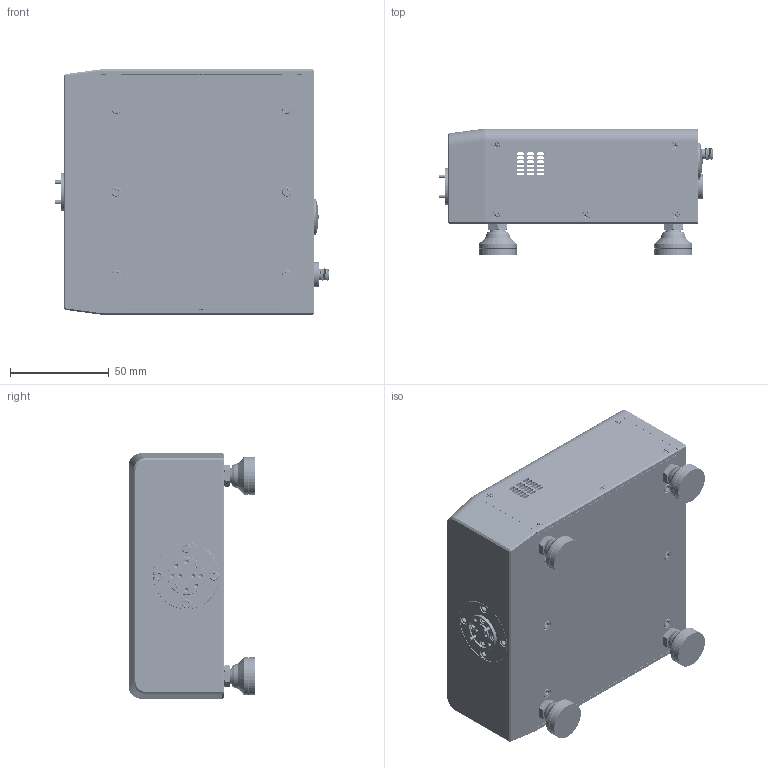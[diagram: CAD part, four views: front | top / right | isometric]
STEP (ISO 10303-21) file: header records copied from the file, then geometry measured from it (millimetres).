
FILE_DESCRIPTION (( 'STEP AP214' ), '1' );
FILE_NAME ('TC-V-A-IDP, Defeatured.STEP', '2025-02-11T20:57:07', ( '' ), ( '' ), 'SwSTEP 2.0', 'SolidWorks 2021', '' );
FILE_SCHEMA (( 'AUTOMOTIVE_DESIGN' ));
Length unit declared in the file: inch
Products named in the file (1): TC-V-A-IDP, Defeatured
Bounding box: 139.21 x 64.14 x 124.32 mm (x, y, z)
Volume: 300467.9 mm3; surface area: 152668.2 mm2
Topology: 53 solids, 53 shells, 3691 faces, 9927 edges, 6342 vertices
Faces by surface type: cylinder 1971, plane 1000, cone 592, bspline 81, torus 28, sphere 19
Entity records: 216430 total; most frequent: CARTESIAN_POINT 83648, ORIENTED_EDGE 19502, DIRECTION 15768, EDGE_CURVE 9751, VERTEX_POINT 6317, AXIS2_PLACEMENT_3D 5811, VECTOR 4146, LINE 4146
